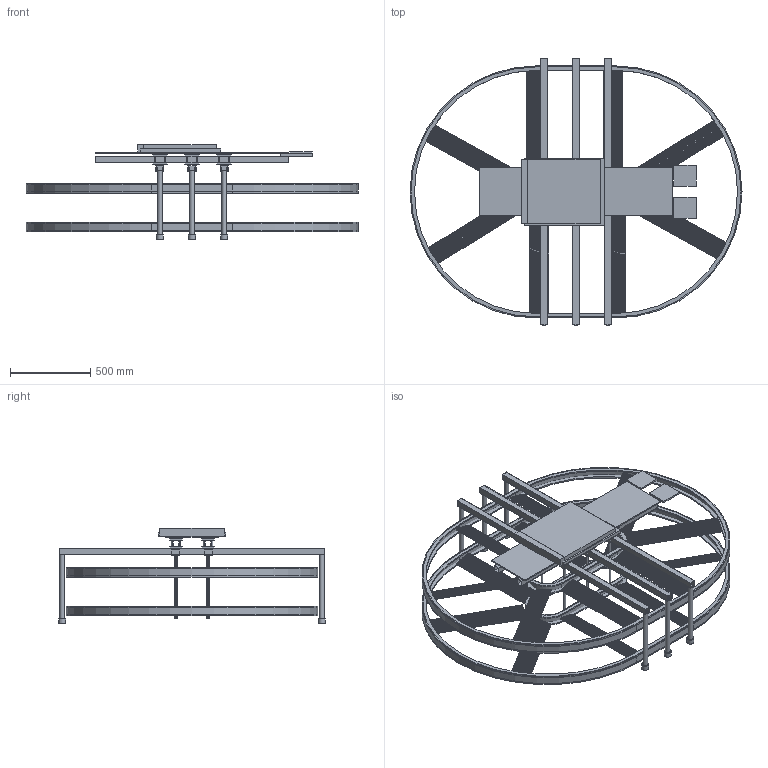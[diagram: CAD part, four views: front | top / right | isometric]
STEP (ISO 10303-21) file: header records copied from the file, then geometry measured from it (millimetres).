
FILE_DESCRIPTION(('FreeCAD Model'),'2;1');
FILE_NAME('Open CASCADE Shape Model','2026-10-29T11:57:54',('FreeCAD'),( 'FreeCAD'),'Open CASCADE STEP processor 7.8','FreeCAD','Unknown');
FILE_SCHEMA(('AUTOMOTIVE_DESIGN { 1 0 10303 214 1 1 1 1 }'));
Products named in the file (1): Open CASCADE STEP translator 7.8 5
Bounding box: 2072 x 1664 x 595 mm (x, y, z)
Volume: 35656087.6 mm3; surface area: 13980431 mm2
Topology: 149 solids, 149 shells, 4014 faces, 11148 edges, 7432 vertices
Faces by surface type: plane 3762, cylinder 252
Full cylindrical faces by diameter (mm): 6 x24, 6.6 x120, 10 x30, 16 x6, 24 x12, 30 x6, 44 x6
Entity records: 126490 total; most frequent: CARTESIAN_POINT 22595, ORIENTED_EDGE 22296, DIRECTION 19682, EDGE_CURVE 11148, LINE 10644, VECTOR 10644, VERTEX_POINT 7432, AXIS2_PLACEMENT_3D 4519
